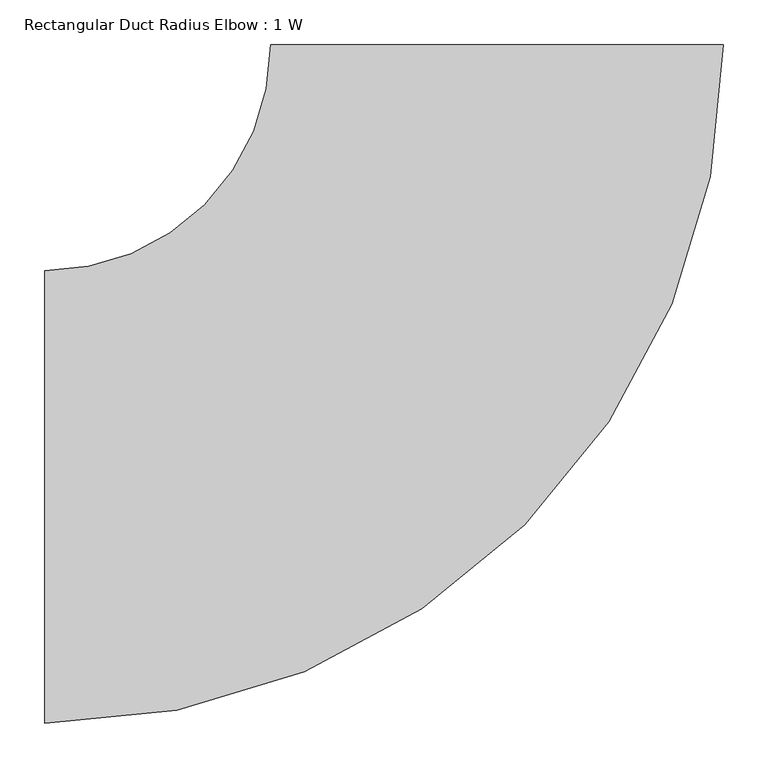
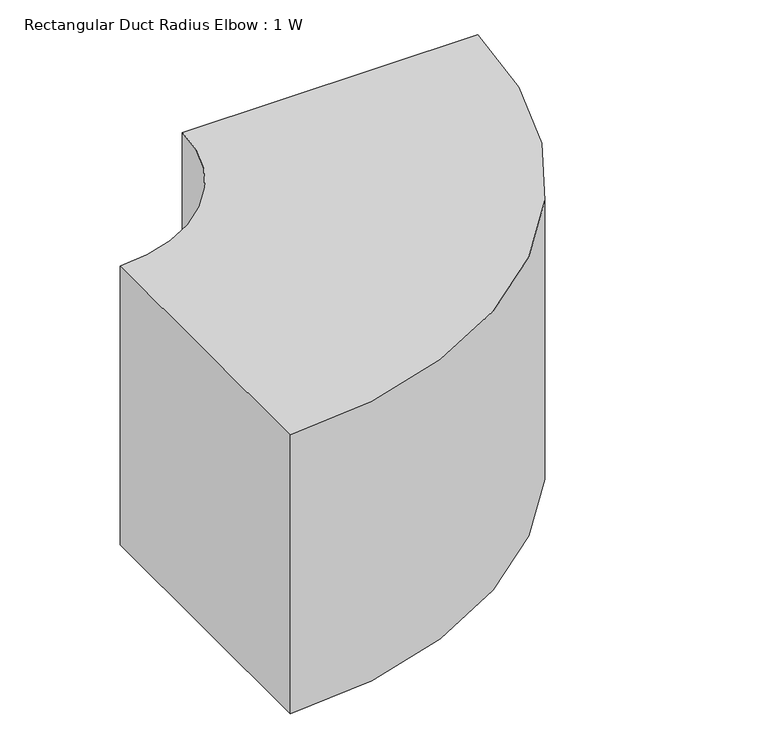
"""IFC4 building model written with IfcOpenShell, lengths in millimetres: duct fitting geometry, Rectangular Duct Radius Elbow : 1 W."""

from ifc_helpers import new_model, si_unit, point, frame, frame_2d, origin, place, context, project, spatial, polyline, circle_curve, trimmed, segment, composite_curve, outline, extrude, source, transform, mapped, element, save


def rectangular_duct_radius_elbow_1_w_7e1641f4(model_context):
    return source(origin(), model_context, "Body", "SweptSolid", [
        extrude(outline(composite_curve([segment(trimmed(circle_curve(frame_2d((-508.0, 508.0)), 762.0), [point((254.0, 508.0))], [point((-508.0, -254.0))], False, "CARTESIAN"), True, "CONTINUOUS"), segment(polyline([(-508.0, -254.0), (-508.0, 254.0)]), True, "CONTINUOUS"), segment(trimmed(circle_curve(frame_2d((-508.0, 508.0)), 254.0), [point((-508.0, 254.0))], [point((-254.0, 508.0))], True, "CARTESIAN"), True, "CONTINUOUS"), segment(polyline([(-254.0, 508.0), (254.0, 508.0)]), True, "CONTINUOUS")], self_intersect=False)), frame((0.0, 0.0, -254.0), z_axis=(0.0, 0.0, 1.0), x_axis=(1.0, 0.0, 0.0)), (0.0, 0.0, 1.0), 508.0),
        extrude(outline(composite_curve([segment(trimmed(circle_curve(frame_2d((-508.0, 508.0)), 762.0), [point((254.0, 508.0))], [point((-508.0, -254.0))], False, "CARTESIAN"), True, "CONTINUOUS"), segment(polyline([(-508.0, -254.0), (-508.0, 254.0)]), True, "CONTINUOUS"), segment(trimmed(circle_curve(frame_2d((-508.0, 508.0)), 254.0), [point((-508.0, 254.0))], [point((-254.0, 508.0))], True, "CARTESIAN"), True, "CONTINUOUS"), segment(polyline([(-254.0, 508.0), (254.0, 508.0)]), True, "CONTINUOUS")], self_intersect=False)), frame((0.0, 0.0, -254.0), z_axis=(0.0, 0.0, 1.0), x_axis=(1.0, 0.0, 0.0)), (0.0, 0.0, 1.0), 508.0),
        extrude(outline(composite_curve([segment(trimmed(circle_curve(frame_2d((-508.0, 508.0)), 762.0), [point((254.0, 508.0))], [point((-508.0, -254.0))], False, "CARTESIAN"), True, "CONTINUOUS"), segment(polyline([(-508.0, -254.0), (-508.0, 254.0)]), True, "CONTINUOUS"), segment(trimmed(circle_curve(frame_2d((-508.0, 508.0)), 254.0), [point((-508.0, 254.0))], [point((-254.0, 508.0))], True, "CARTESIAN"), True, "CONTINUOUS"), segment(polyline([(-254.0, 508.0), (254.0, 508.0)]), True, "CONTINUOUS")], self_intersect=False)), frame((0.0, 0.0, -254.0), z_axis=(0.0, 0.0, 1.0), x_axis=(1.0, 0.0, 0.0)), (0.0, 0.0, 1.0), 508.0),
    ])


if __name__ == "__main__":
    model = new_model("IFC4")
    model_context = context("Model", 3, world=origin())
    ifc_project = project(units=[si_unit("LENGTHUNIT", "METRE", prefix="MILLI")], contexts=[model_context])
    site = spatial("IfcSite", under=ifc_project)
    building = spatial("IfcBuilding", under=site)
    placement = place(None, origin())
    rectangular_duct_radius_elbow_1_w_shape = rectangular_duct_radius_elbow_1_w_7e1641f4(model_context)
    element("IfcDuctFitting", 1, ObjectType="Rectangular Duct Radius Elbow : 1 W", at=placement, inside=building, context=model_context, shape_type="MappedRepresentation", body=[
        mapped(rectangular_duct_radius_elbow_1_w_shape, transform((0.0, 0.0, 0.0), x_axis=(1.0, 0.0, 0.0), y_axis=(0.0, 1.0, 0.0), z_axis=(0.0, 0.0, 1.0))),
    ])
    save(model, "model.ifc")
